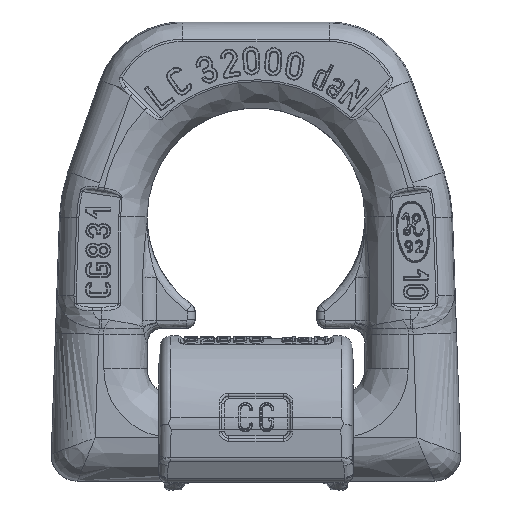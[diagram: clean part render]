
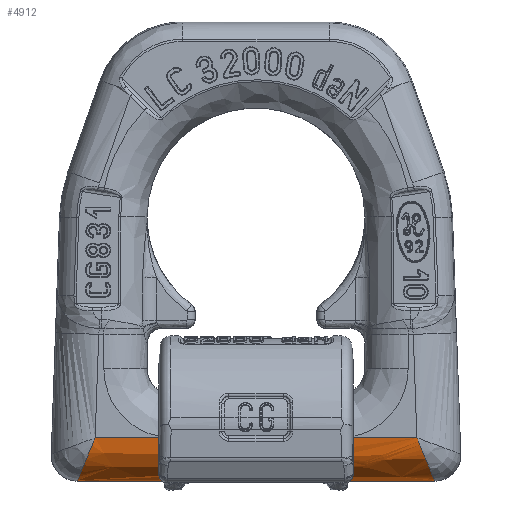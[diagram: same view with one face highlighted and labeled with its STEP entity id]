
A CAD part, front view. The second image highlights one B-rep face of the part: STEP entity #4912.
In plain terms, the highlighted free-form (B-spline) face has degree [5, 1] with [6, 2] control points.
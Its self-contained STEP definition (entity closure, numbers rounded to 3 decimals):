
#3222=B_SPLINE_SURFACE_WITH_KNOTS('',5,1,((#103961,#103962),(#103963,#103964),
(#103965,#103966),(#103967,#103968),(#103969,#103970),(#103971,#103972)),
 .UNSPECIFIED.,.F.,.F.,.F.,(6,6),(2,2),(0.,1.),(0.,1.),.UNSPECIFIED.);
#4912=ADVANCED_FACE('',(#7693),#3222,.T.);
#7693=FACE_OUTER_BOUND('',#10029,.T.);
#10029=EDGE_LOOP('',(#18154,#18155,#18156,#18157));
#18154=ORIENTED_EDGE('',*,*,#28240,.T.);
#18155=ORIENTED_EDGE('',*,*,#28324,.T.);
#18156=ORIENTED_EDGE('',*,*,#28261,.T.);
#18157=ORIENTED_EDGE('',*,*,#28381,.T.);
#23616=VERTEX_POINT('',#100693);
#23618=VERTEX_POINT('',#100703);
#23629=VERTEX_POINT('',#101296);
#23630=VERTEX_POINT('',#101297);
#28240=EDGE_CURVE('',#23618,#23616,#33533,.T.);
#28261=EDGE_CURVE('',#23629,#23630,#33553,.T.);
#28324=EDGE_CURVE('',#23616,#23629,#33615,.T.);
#28381=EDGE_CURVE('',#23630,#23618,#33672,.T.);
#33533=B_SPLINE_CURVE_WITH_KNOTS('',3,(#100695,#100696,#100697,#100698,#100699,
#100700,#100701,#100702),.UNSPECIFIED.,.F.,.F.,(4,2,2,4),(0.,0.25,0.5,1.),
 .UNSPECIFIED.);
#33553=B_SPLINE_CURVE_WITH_KNOTS('',3,(#101288,#101289,#101290,#101291,#101292,
#101293,#101294,#101295),.UNSPECIFIED.,.F.,.F.,(4,2,2,4),(0.,0.5,0.75,1.),
 .UNSPECIFIED.);
#33615=B_SPLINE_CURVE_WITH_KNOTS('',1,(#102762,#102763),.UNSPECIFIED.,.F.,
 .F.,(2,2),(0.,1.),.UNSPECIFIED.);
#33672=B_SPLINE_CURVE_WITH_KNOTS('',1,(#103959,#103960),.UNSPECIFIED.,.F.,
 .F.,(2,2),(0.,1.),.UNSPECIFIED.);
#100693=CARTESIAN_POINT('',(74.288,-20.,0.002));
#100695=CARTESIAN_POINT('',(82.5,-1.442,-19.899));
#100696=CARTESIAN_POINT('',(82.425,-4.037,-19.718));
#100697=CARTESIAN_POINT('',(82.137,-6.587,-19.02));
#100698=CARTESIAN_POINT('',(81.201,-11.179,-16.752));
#100699=CARTESIAN_POINT('',(80.556,-13.22,-15.187));
#100700=CARTESIAN_POINT('',(78.265,-18.212,-9.636));
#100701=CARTESIAN_POINT('',(76.274,-20.,-4.811));
#100702=CARTESIAN_POINT('',(74.288,-20.,0.002));
#100703=CARTESIAN_POINT('',(82.5,-1.442,-19.899));
#101288=CARTESIAN_POINT('',(-74.288,-20.,0.002));
#101289=CARTESIAN_POINT('',(-76.274,-20.,-4.811));
#101290=CARTESIAN_POINT('',(-78.265,-18.212,-9.636));
#101291=CARTESIAN_POINT('',(-80.556,-13.22,-15.187));
#101292=CARTESIAN_POINT('',(-81.201,-11.179,-16.752));
#101293=CARTESIAN_POINT('',(-82.137,-6.587,-19.02));
#101294=CARTESIAN_POINT('',(-82.425,-4.037,-19.718));
#101295=CARTESIAN_POINT('',(-82.5,-1.442,-19.899));
#101296=CARTESIAN_POINT('',(-74.288,-20.,0.002));
#101297=CARTESIAN_POINT('',(-82.5,-1.442,-19.899));
#102762=CARTESIAN_POINT('',(74.288,-20.,0.002));
#102763=CARTESIAN_POINT('',(-74.288,-20.,0.002));
#103959=CARTESIAN_POINT('',(-82.5,-1.442,-19.899));
#103960=CARTESIAN_POINT('',(82.5,-1.442,-19.899));
#103961=CARTESIAN_POINT('',(-82.5,-20.,0.002));
#103962=CARTESIAN_POINT('',(82.5,-20.,0.002));
#103963=CARTESIAN_POINT('',(-82.5,-20.,-5.987));
#103964=CARTESIAN_POINT('',(82.5,-20.,-5.987));
#103965=CARTESIAN_POINT('',(-82.5,-17.758,-11.98));
#103966=CARTESIAN_POINT('',(82.5,-17.758,-11.98));
#103967=CARTESIAN_POINT('',(-82.5,-13.238,-16.827));
#103968=CARTESIAN_POINT('',(82.5,-13.238,-16.827));
#103969=CARTESIAN_POINT('',(-82.5,-7.416,-19.481));
#103970=CARTESIAN_POINT('',(82.5,-7.416,-19.481));
#103971=CARTESIAN_POINT('',(-82.5,-1.442,-19.899));
#103972=CARTESIAN_POINT('',(82.5,-1.442,-19.899));
